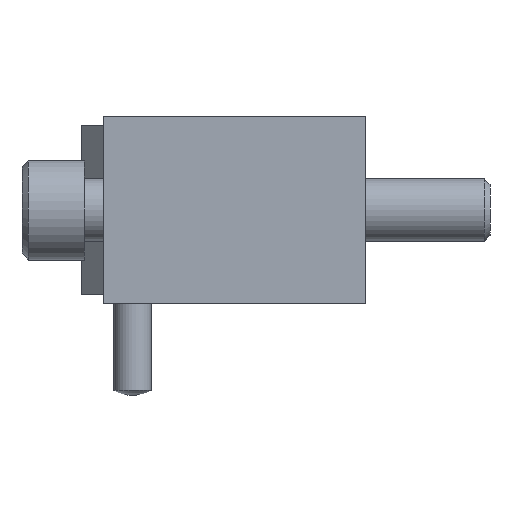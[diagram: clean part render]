
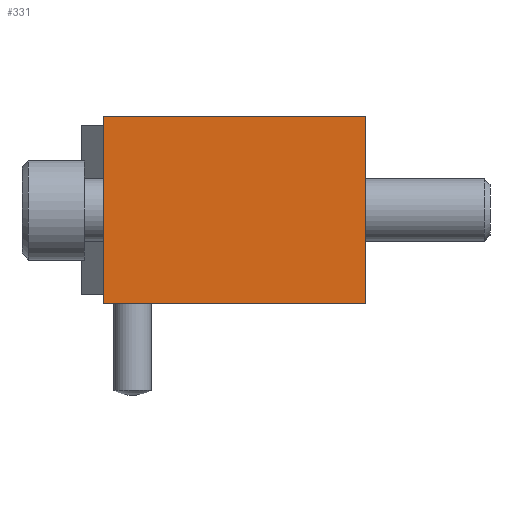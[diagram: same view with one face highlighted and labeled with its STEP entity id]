
A CAD part, left-side view. The second image highlights one B-rep face of the part: STEP entity #331.
In plain terms, the highlighted planar face has unit normal (-1, 0, 0).
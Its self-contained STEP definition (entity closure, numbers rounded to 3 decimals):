
#331 = ADVANCED_FACE( '', ( #631 ), #632, .F. );
#631 = FACE_OUTER_BOUND( '', #978, .T. );
#632 = PLANE( '', #979 );
#978 = EDGE_LOOP( '', ( #1439, #1440, #1441, #1442 ) );
#979 = AXIS2_PLACEMENT_3D( '', #1443, #1444, #1445 );
#1439 = ORIENTED_EDGE( '', *, *, #2087, .T. );
#1440 = ORIENTED_EDGE( '', *, *, #2088, .F. );
#1441 = ORIENTED_EDGE( '', *, *, #2089, .F. );
#1442 = ORIENTED_EDGE( '', *, *, #1969, .T. );
#1443 = CARTESIAN_POINT( '', ( 0., 42., -15. ) );
#1444 = DIRECTION( '', ( 1., 0., 0. ) );
#1445 = DIRECTION( '', ( 0., 0., -1. ) );
#1969 = EDGE_CURVE( '', #2256, #2254, #2257, .T. );
#2087 = EDGE_CURVE( '', #2254, #2454, #2455, .T. );
#2088 = EDGE_CURVE( '', #2456, #2454, #2457, .T. );
#2089 = EDGE_CURVE( '', #2256, #2456, #2458, .T. );
#2254 = VERTEX_POINT( '', #2665 );
#2256 = VERTEX_POINT( '', #2668 );
#2257 = LINE( '', #2669, #2670 );
#2454 = VERTEX_POINT( '', #2992 );
#2455 = LINE( '', #2993, #2994 );
#2456 = VERTEX_POINT( '', #2995 );
#2457 = LINE( '', #2996, #2997 );
#2458 = LINE( '', #2998, #2999 );
#2665 = CARTESIAN_POINT( '', ( 0., 0., -15. ) );
#2668 = CARTESIAN_POINT( '', ( 0., 42., -15. ) );
#2669 = CARTESIAN_POINT( '', ( 0., 42., -15. ) );
#2670 = VECTOR( '', #3271, 1000. );
#2992 = CARTESIAN_POINT( '', ( 0., 0., 15. ) );
#2993 = CARTESIAN_POINT( '', ( 0., 0., -15. ) );
#2994 = VECTOR( '', #3394, 1000. );
#2995 = CARTESIAN_POINT( '', ( 0., 42., 15. ) );
#2996 = CARTESIAN_POINT( '', ( 0., 42., 15. ) );
#2997 = VECTOR( '', #3395, 1000. );
#2998 = CARTESIAN_POINT( '', ( 0., 42., -15. ) );
#2999 = VECTOR( '', #3396, 1000. );
#3271 = DIRECTION( '', ( 0., -1., 0. ) );
#3394 = DIRECTION( '', ( 0., 0., 1. ) );
#3395 = DIRECTION( '', ( 0., -1., 0. ) );
#3396 = DIRECTION( '', ( 0., 0., 1. ) );
